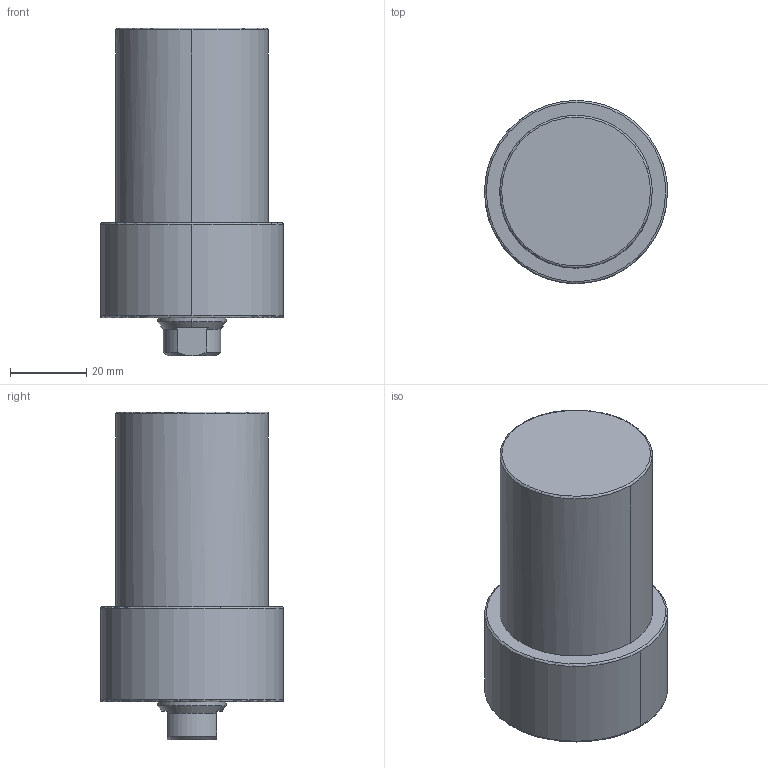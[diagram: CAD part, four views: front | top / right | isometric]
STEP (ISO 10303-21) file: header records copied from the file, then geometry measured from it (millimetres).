
FILE_DESCRIPTION((' '),'2;1');
FILE_NAME( 'TLLU-040GA-040.STEP.stp', '2025-10-24T16:37:10', (' '), ('--- Datakit www.datakit.com---'), ' Datakit CrossCadWare V2024.1 Dec 21 2023', 'Mastercam 2025', ' ');
FILE_SCHEMA(('AUTOMOTIVE_DESIGN { 1 0 10303 214 1 1 1 1 }'));
Length unit declared in the file: millimetre
Products named in the file (1): TLLU-040GA-040
Bounding box: 47.99 x 48 x 86 mm (x, y, z)
Volume: 109339.7 mm3; surface area: 15392.5 mm2
Topology: 1 solids, 1 shells, 62 faces, 180 edges, 119 vertices
Faces by surface type: cone 24, cylinder 22, plane 10, torus 6
Entity records: 2106 total; most frequent: DIRECTION 402, CARTESIAN_POINT 388, ORIENTED_EDGE 340, AXIS2_PLACEMENT_3D 177, EDGE_CURVE 170, VERTEX_POINT 119, CIRCLE 114, EDGE_LOOP 71
